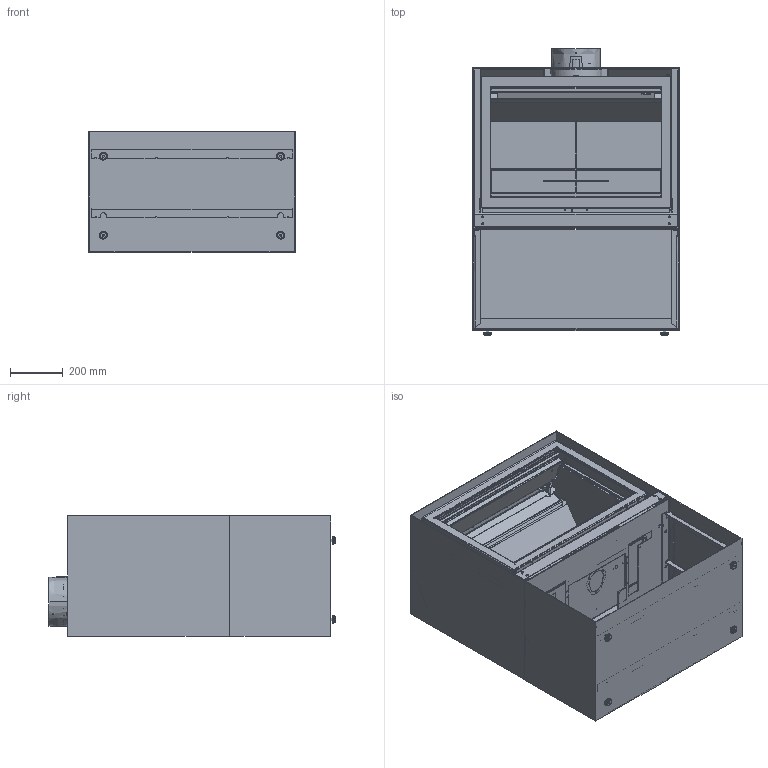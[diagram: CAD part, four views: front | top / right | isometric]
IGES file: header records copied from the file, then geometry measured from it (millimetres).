
Start section:  PTC IGES file: 1678_h.igs
Global section: file name: 1678_h.igs; native system: Creo Parametric by Parametric Technology Corporation; preprocessor: 2012230; author: JBO; organization: Unknown; date: 20121112.100735; units: millimetre
Bounding box: 780 x 1080 x 455.8 mm (x, y, z)
Volume: 35082748.1 mm3; surface area: 12110206 mm2
Topology: 18 solids, 18 shells, 4383 faces, 11862 edges, 7395 vertices
Faces by surface type: bspline 2691, revolution 1692
